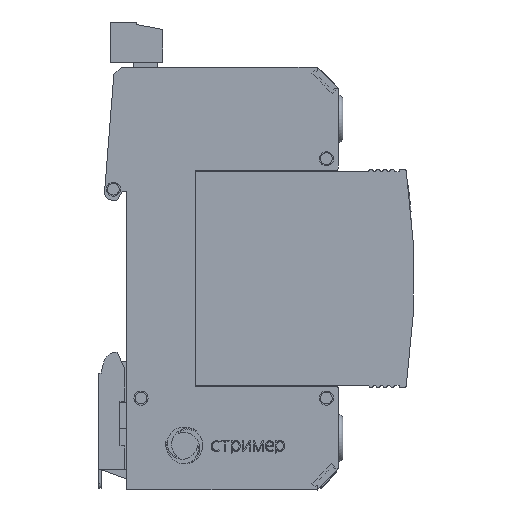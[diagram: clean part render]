
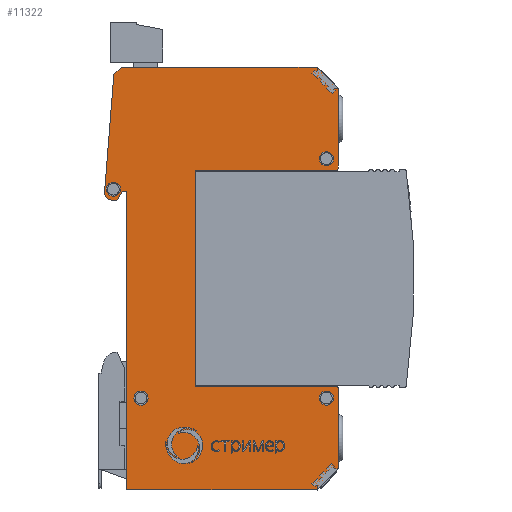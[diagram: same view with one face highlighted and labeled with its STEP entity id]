
A CAD part, front view. The second image highlights one B-rep face of the part: STEP entity #11322.
In plain terms, the highlighted planar face has unit normal (0, -1, 0).
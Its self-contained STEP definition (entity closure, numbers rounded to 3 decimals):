
#9522=CARTESIAN_POINT('',(-14.5,-9.,-45.));
#9523=VERTEX_POINT('',#9522);
#9524=CARTESIAN_POINT('',(26.,-9.,-45.));
#9525=VERTEX_POINT('',#9524);
#9526=CARTESIAN_POINT('',(-14.5,-9.,-45.));
#9527=DIRECTION('',(1.,0.,-0.));
#9528=VECTOR('',#9527,40.5);
#9529=LINE('',#9526,#9528);
#9530=EDGE_CURVE('',#9523,#9525,#9529,.T.);
#10192=CARTESIAN_POINT('',(-14.5,-9.,18.5));
#10193=VERTEX_POINT('',#10192);
#10194=CARTESIAN_POINT('',(-14.5,-9.,18.5));
#10195=DIRECTION('',(0.,0.,-1.));
#10196=VECTOR('',#10195,63.5);
#10197=LINE('',#10194,#10196);
#10198=EDGE_CURVE('',#10193,#9523,#10197,.T.);
#10393=CARTESIAN_POINT('',(-15.5,-9.,45.));
#10394=VERTEX_POINT('',#10393);
#10395=CARTESIAN_POINT('',(-17.29,-9.,43.498));
#10396=VERTEX_POINT('',#10395);
#10397=CARTESIAN_POINT('',(-15.5,-9.,45.));
#10398=DIRECTION('',(-0.766,0.,-0.643));
#10399=VECTOR('',#10398,2.337);
#10400=LINE('',#10397,#10399);
#10401=EDGE_CURVE('',#10394,#10396,#10400,.T.);
#10433=CARTESIAN_POINT('',(-19.273,-9.,18.306));
#10434=VERTEX_POINT('',#10433);
#10435=CARTESIAN_POINT('',(-17.29,-9.,43.498));
#10436=DIRECTION('',(-0.078,0.,-0.997));
#10437=VECTOR('',#10436,25.27);
#10438=LINE('',#10435,#10437);
#10439=EDGE_CURVE('',#10396,#10434,#10438,.T.);
#10464=CARTESIAN_POINT('',(-17.999,-9.,16.704));
#10465=VERTEX_POINT('',#10464);
#10466=CARTESIAN_POINT('',(-17.777,-9.,18.188));
#10467=DIRECTION('',(0.,-1.,0.));
#10468=DIRECTION('',(0.,0.,1.));
#10469=AXIS2_PLACEMENT_3D('',#10466,#10467,#10468);
#10470=CIRCLE('',#10469,1.5);
#10471=EDGE_CURVE('',#10434,#10465,#10470,.T.);
#10497=CARTESIAN_POINT('',(-16.632,-9.,16.5));
#10498=VERTEX_POINT('',#10497);
#10499=CARTESIAN_POINT('',(-17.999,-9.,16.704));
#10500=DIRECTION('',(0.989,0.,-0.148));
#10501=VECTOR('',#10500,1.383);
#10502=LINE('',#10499,#10501);
#10503=EDGE_CURVE('',#10465,#10498,#10502,.T.);
#10528=CARTESIAN_POINT('',(-15.5,-9.,18.5));
#10529=VERTEX_POINT('',#10528);
#10530=CARTESIAN_POINT('',(-16.632,-9.,16.5));
#10531=DIRECTION('',(0.492,0.,0.87));
#10532=VECTOR('',#10531,2.298);
#10533=LINE('',#10530,#10532);
#10534=EDGE_CURVE('',#10498,#10529,#10533,.T.);
#10559=CARTESIAN_POINT('',(-15.5,-9.,18.5));
#10560=DIRECTION('',(1.,0.,0.));
#10561=VECTOR('',#10560,1.);
#10562=LINE('',#10559,#10561);
#10563=EDGE_CURVE('',#10529,#10193,#10562,.T.);
#10581=CARTESIAN_POINT('',(30.5,-9.,-40.5));
#10582=VERTEX_POINT('',#10581);
#10583=CARTESIAN_POINT('',(26.,-9.,-45.));
#10584=DIRECTION('',(0.707,0.,0.707));
#10585=VECTOR('',#10584,6.364);
#10586=LINE('',#10583,#10585);
#10587=EDGE_CURVE('',#9525,#10582,#10586,.T.);
#10632=CARTESIAN_POINT('',(30.5,-9.,-23.5));
#10633=VERTEX_POINT('',#10632);
#10634=CARTESIAN_POINT('',(30.5,-9.,-40.5));
#10635=DIRECTION('',(0.,0.,1.));
#10636=VECTOR('',#10635,17.);
#10637=LINE('',#10634,#10636);
#10638=EDGE_CURVE('',#10582,#10633,#10637,.T.);
#10663=CARTESIAN_POINT('',(30.,-9.,-23.));
#10664=VERTEX_POINT('',#10663);
#10665=CARTESIAN_POINT('',(30.,-9.,-23.5));
#10666=DIRECTION('',(0.,-1.,0.));
#10667=DIRECTION('',(0.,0.,1.));
#10668=AXIS2_PLACEMENT_3D('',#10665,#10666,#10667);
#10669=CIRCLE('',#10668,0.5);
#10670=EDGE_CURVE('',#10633,#10664,#10669,.T.);
#10696=CARTESIAN_POINT('',(0.,-9.,-23.));
#10697=VERTEX_POINT('',#10696);
#10698=CARTESIAN_POINT('',(30.,-9.,-23.));
#10699=DIRECTION('',(-1.,0.,0.));
#10700=VECTOR('',#10699,30.);
#10701=LINE('',#10698,#10700);
#10702=EDGE_CURVE('',#10664,#10697,#10701,.T.);
#10727=CARTESIAN_POINT('',(0.,-9.,23.));
#10728=VERTEX_POINT('',#10727);
#10729=CARTESIAN_POINT('',(0.,-9.,-23.));
#10730=DIRECTION('',(0.,0.,1.));
#10731=VECTOR('',#10730,46.);
#10732=LINE('',#10729,#10731);
#10733=EDGE_CURVE('',#10697,#10728,#10732,.T.);
#10758=CARTESIAN_POINT('',(30.,-9.,23.));
#10759=VERTEX_POINT('',#10758);
#10760=CARTESIAN_POINT('',(0.,-9.,23.));
#10761=DIRECTION('',(1.,0.,0.));
#10762=VECTOR('',#10761,30.);
#10763=LINE('',#10760,#10762);
#10764=EDGE_CURVE('',#10728,#10759,#10763,.T.);
#10789=CARTESIAN_POINT('',(30.5,-9.,23.5));
#10790=VERTEX_POINT('',#10789);
#10791=CARTESIAN_POINT('',(30.,-9.,23.5));
#10792=DIRECTION('',(0.,-1.,0.));
#10793=DIRECTION('',(0.,0.,1.));
#10794=AXIS2_PLACEMENT_3D('',#10791,#10792,#10793);
#10795=CIRCLE('',#10794,0.5);
#10796=EDGE_CURVE('',#10759,#10790,#10795,.T.);
#10842=CARTESIAN_POINT('',(30.5,-9.,40.5));
#10843=VERTEX_POINT('',#10842);
#10844=CARTESIAN_POINT('',(30.5,-9.,23.5));
#10845=DIRECTION('',(0.,0.,1.));
#10846=VECTOR('',#10845,17.);
#10847=LINE('',#10844,#10846);
#10848=EDGE_CURVE('',#10790,#10843,#10847,.T.);
#10873=CARTESIAN_POINT('',(26.,-9.,45.));
#10874=VERTEX_POINT('',#10873);
#10875=CARTESIAN_POINT('',(30.5,-9.,40.5));
#10876=DIRECTION('',(-0.707,0.,0.707));
#10877=VECTOR('',#10876,6.364);
#10878=LINE('',#10875,#10877);
#10879=EDGE_CURVE('',#10843,#10874,#10878,.T.);
#10904=CARTESIAN_POINT('',(-17.38,-9.,17.5));
#10905=VERTEX_POINT('',#10904);
#10914=CARTESIAN_POINT('',(-18.88,-9.,19.));
#10915=VERTEX_POINT('',#10914);
#10916=CARTESIAN_POINT('',(-17.38,-9.,19.));
#10917=DIRECTION('',(0.,-1.,0.));
#10918=DIRECTION('',(-1.,0.,0.));
#10919=AXIS2_PLACEMENT_3D('',#10916,#10917,#10918);
#10920=CIRCLE('',#10919,1.5);
#10921=EDGE_CURVE('',#10905,#10915,#10920,.T.);
#10946=CARTESIAN_POINT('',(28.,-9.,24.));
#10947=VERTEX_POINT('',#10946);
#10956=CARTESIAN_POINT('',(26.5,-9.,25.5));
#10957=VERTEX_POINT('',#10956);
#10958=CARTESIAN_POINT('',(28.,-9.,25.5));
#10959=DIRECTION('',(0.,-1.,0.));
#10960=DIRECTION('',(-1.,0.,0.));
#10961=AXIS2_PLACEMENT_3D('',#10958,#10959,#10960);
#10962=CIRCLE('',#10961,1.5);
#10963=EDGE_CURVE('',#10947,#10957,#10962,.T.);
#10988=CARTESIAN_POINT('',(-11.5,-9.,-27.));
#10989=VERTEX_POINT('',#10988);
#10998=CARTESIAN_POINT('',(-13.,-9.,-25.5));
#10999=VERTEX_POINT('',#10998);
#11000=CARTESIAN_POINT('',(-11.5,-9.,-25.5));
#11001=DIRECTION('',(0.,-1.,0.));
#11002=DIRECTION('',(-1.,0.,0.));
#11003=AXIS2_PLACEMENT_3D('',#11000,#11001,#11002);
#11004=CIRCLE('',#11003,1.5);
#11005=EDGE_CURVE('',#10989,#10999,#11004,.T.);
#11030=CARTESIAN_POINT('',(28.,-9.,-27.));
#11031=VERTEX_POINT('',#11030);
#11040=CARTESIAN_POINT('',(26.5,-9.,-25.5));
#11041=VERTEX_POINT('',#11040);
#11042=CARTESIAN_POINT('',(28.,-9.,-25.5));
#11043=DIRECTION('',(0.,-1.,0.));
#11044=DIRECTION('',(-1.,0.,0.));
#11045=AXIS2_PLACEMENT_3D('',#11042,#11043,#11044);
#11046=CIRCLE('',#11045,1.5);
#11047=EDGE_CURVE('',#11031,#11041,#11046,.T.);
#11174=CARTESIAN_POINT('',(26.,-9.,45.));
#11175=DIRECTION('',(-1.,0.,0.));
#11176=VECTOR('',#11175,41.5);
#11177=LINE('',#11174,#11176);
#11178=EDGE_CURVE('',#10874,#10394,#11177,.T.);
#11257=CARTESIAN_POINT('',(0.,-9.,0.));
#11258=DIRECTION('',(0.,-1.,0.));
#11259=DIRECTION('',(0.,0.,1.));
#11260=AXIS2_PLACEMENT_3D('',#11257,#11258,#11259);
#11261=PLANE('',#11260);
#11262=ORIENTED_EDGE('',*,*,#11047,.F.);
#11263=CARTESIAN_POINT('',(28.,-9.,-25.5));
#11264=DIRECTION('',(0.,-1.,0.));
#11265=DIRECTION('',(-1.,0.,0.));
#11266=AXIS2_PLACEMENT_3D('',#11263,#11264,#11265);
#11267=CIRCLE('',#11266,1.5);
#11268=EDGE_CURVE('',#11041,#11031,#11267,.T.);
#11269=ORIENTED_EDGE('',*,*,#11268,.F.);
#11270=EDGE_LOOP('',(#11262,#11269));
#11271=FACE_BOUND('',#11270,.T.);
#11272=ORIENTED_EDGE('',*,*,#11005,.F.);
#11273=CARTESIAN_POINT('',(-11.5,-9.,-25.5));
#11274=DIRECTION('',(0.,-1.,0.));
#11275=DIRECTION('',(-1.,0.,0.));
#11276=AXIS2_PLACEMENT_3D('',#11273,#11274,#11275);
#11277=CIRCLE('',#11276,1.5);
#11278=EDGE_CURVE('',#10999,#10989,#11277,.T.);
#11279=ORIENTED_EDGE('',*,*,#11278,.F.);
#11280=EDGE_LOOP('',(#11272,#11279));
#11281=FACE_BOUND('',#11280,.T.);
#11282=ORIENTED_EDGE('',*,*,#10963,.F.);
#11283=CARTESIAN_POINT('',(28.,-9.,25.5));
#11284=DIRECTION('',(0.,-1.,0.));
#11285=DIRECTION('',(-1.,0.,0.));
#11286=AXIS2_PLACEMENT_3D('',#11283,#11284,#11285);
#11287=CIRCLE('',#11286,1.5);
#11288=EDGE_CURVE('',#10957,#10947,#11287,.T.);
#11289=ORIENTED_EDGE('',*,*,#11288,.F.);
#11290=EDGE_LOOP('',(#11282,#11289));
#11291=FACE_BOUND('',#11290,.T.);
#11292=ORIENTED_EDGE('',*,*,#10921,.F.);
#11293=CARTESIAN_POINT('',(-17.38,-9.,19.));
#11294=DIRECTION('',(0.,-1.,0.));
#11295=DIRECTION('',(-1.,0.,0.));
#11296=AXIS2_PLACEMENT_3D('',#11293,#11294,#11295);
#11297=CIRCLE('',#11296,1.5);
#11298=EDGE_CURVE('',#10915,#10905,#11297,.T.);
#11299=ORIENTED_EDGE('',*,*,#11298,.F.);
#11300=EDGE_LOOP('',(#11292,#11299));
#11301=FACE_BOUND('',#11300,.T.);
#11302=ORIENTED_EDGE('',*,*,#10401,.T.);
#11303=ORIENTED_EDGE('',*,*,#10439,.T.);
#11304=ORIENTED_EDGE('',*,*,#10471,.T.);
#11305=ORIENTED_EDGE('',*,*,#10503,.T.);
#11306=ORIENTED_EDGE('',*,*,#10534,.T.);
#11307=ORIENTED_EDGE('',*,*,#10563,.T.);
#11308=ORIENTED_EDGE('',*,*,#10198,.T.);
#11309=ORIENTED_EDGE('',*,*,#9530,.T.);
#11310=ORIENTED_EDGE('',*,*,#10587,.T.);
#11311=ORIENTED_EDGE('',*,*,#10638,.T.);
#11312=ORIENTED_EDGE('',*,*,#10670,.T.);
#11313=ORIENTED_EDGE('',*,*,#10702,.T.);
#11314=ORIENTED_EDGE('',*,*,#10733,.T.);
#11315=ORIENTED_EDGE('',*,*,#10764,.T.);
#11316=ORIENTED_EDGE('',*,*,#10796,.T.);
#11317=ORIENTED_EDGE('',*,*,#10848,.T.);
#11318=ORIENTED_EDGE('',*,*,#10879,.T.);
#11319=ORIENTED_EDGE('',*,*,#11178,.T.);
#11320=EDGE_LOOP('',(#11302,#11303,#11304,#11305,#11306,#11307,#11308,#11309,#11310,#11311,#11312,#11313,#11314,#11315,#11316,#11317,#11318,#11319));
#11321=FACE_BOUND('',#11320,.T.);
#11322=ADVANCED_FACE('',(#11271,#11281,#11291,#11301,#11321),#11261,.T.);
